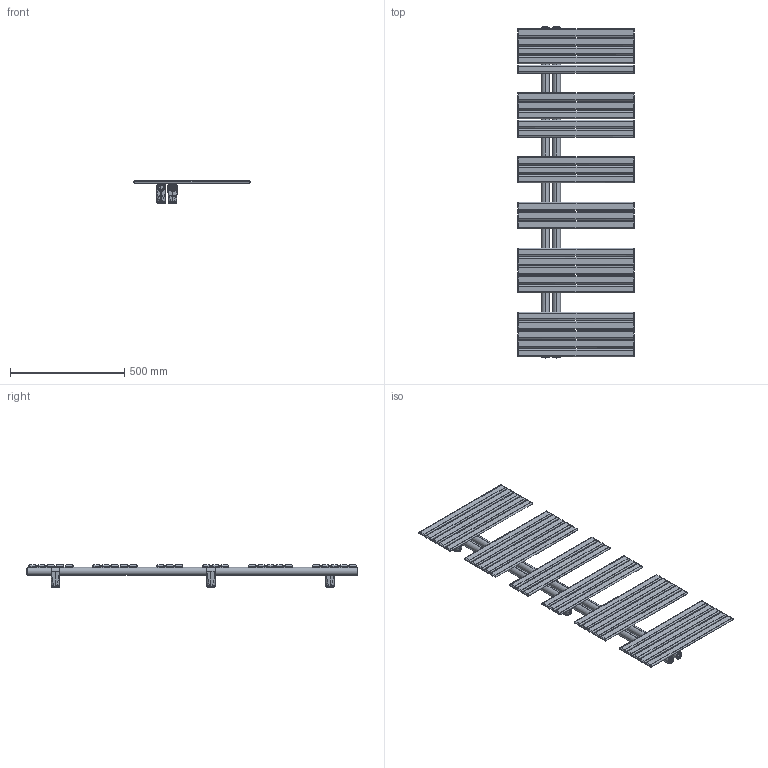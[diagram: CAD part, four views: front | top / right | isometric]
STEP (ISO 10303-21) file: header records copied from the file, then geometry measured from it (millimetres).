
FILE_DESCRIPTION (( 'STEP AP203' ), '1' );
FILE_NAME ('513514.STEP', '2026-03-05T13:46:13', ( '' ), ( '' ), 'SwSTEP 2.0', 'SolidWorks 2025', '' );
FILE_SCHEMA (( 'CONFIG_CONTROL_DESIGN' ));
Length unit declared in the file: millimetre
Products named in the file (10): supporto_3.prt; tappo_sfiato.prt; supporto_2.prt; TRAVERSINO PIATTO 35 PAVONE FLAT [Con configurazioni]_510; supporto.asm; 513514; COLLETTORE INT 40 PAVONE FLAT [Con configurazioni]_1445; tappo_sx.prt; supporto-MANINA-BUS; supporto_1.prt
Assembly tree (37 placements, depth 4):
  513514
    COLLETTORE INT 40 PAVONE FLAT [Con configurazioni]_1445  x2
    TRAVERSINO PIATTO 35 PAVONE FLAT [Con configurazioni]_510  x26
    supporto-MANINA-BUS  x3
      supporto.asm
        supporto_1.prt
        supporto_2.prt
        supporto_3.prt
    tappo_sfiato.prt
    tappo_sx.prt
Bounding box: 510 x 1451 x 97 mm (x, y, z)
Volume: 2215730.3 mm3; surface area: 2770133.9 mm2
Topology: 37 solids, 67 shells, 2172 faces, 5336 edges, 3091 vertices
Faces by surface type: cylinder 748, plane 597, bspline 473, torus 206, cone 106, sphere 42
Entity records: 33470 total; most frequent: CARTESIAN_POINT 21385, ORIENTED_EDGE 2516, DIRECTION 1568, EDGE_CURVE 1262, VERTEX_POINT 755, B_SPLINE_CURVE_WITH_KNOTS 693, AXIS2_PLACEMENT_3D 632, EDGE_LOOP 508
